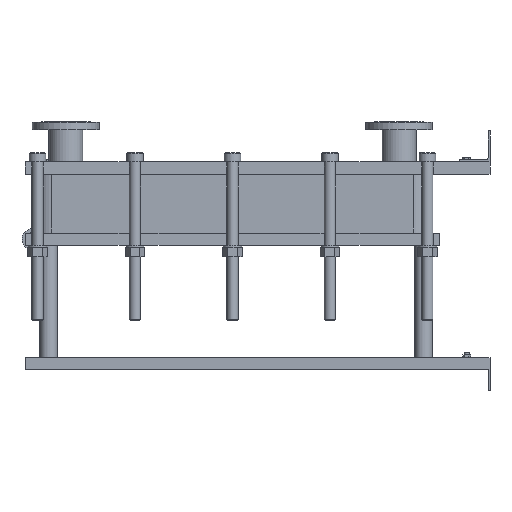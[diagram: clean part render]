
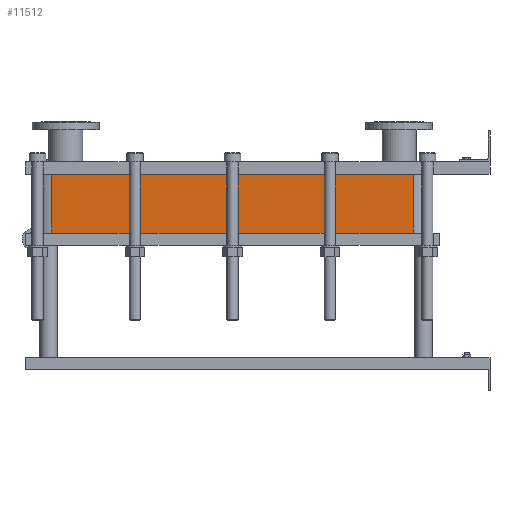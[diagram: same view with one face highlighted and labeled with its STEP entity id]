
A CAD part, left-side view. The second image highlights one B-rep face of the part: STEP entity #11512.
In plain terms, the highlighted planar face has unit normal (-1, 0, 0).
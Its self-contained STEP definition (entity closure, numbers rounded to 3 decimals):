
#1129=LINE('',#23232,#2102);
#1130=LINE('',#23236,#2103);
#1131=LINE('',#23238,#2104);
#1132=LINE('',#23239,#2105);
#2102=VECTOR('',#15887,10.);
#2103=VECTOR('',#15892,10.);
#2104=VECTOR('',#15893,10.);
#2105=VECTOR('',#15894,10.);
#3267=FACE_OUTER_BOUND('',#4093,.T.);
#4093=EDGE_LOOP('',(#10103,#10104,#10105,#10106));
#5642=VERTEX_POINT('',#23229);
#5643=VERTEX_POINT('',#23231);
#5644=VERTEX_POINT('',#23235);
#5645=VERTEX_POINT('',#23237);
#7159=EDGE_CURVE('',#5643,#5642,#1129,.T.);
#7161=EDGE_CURVE('',#5642,#5644,#1130,.T.);
#7162=EDGE_CURVE('',#5645,#5644,#1131,.T.);
#7163=EDGE_CURVE('',#5645,#5643,#1132,.T.);
#10103=ORIENTED_EDGE('',*,*,#7161,.T.);
#10104=ORIENTED_EDGE('',*,*,#7162,.F.);
#10105=ORIENTED_EDGE('',*,*,#7163,.T.);
#10106=ORIENTED_EDGE('',*,*,#7159,.T.);
#10857=PLANE('',#12751);
#11512=ADVANCED_FACE('',(#3267),#10857,.T.);
#12751=AXIS2_PLACEMENT_3D('',#23234,#15890,#15891);
#15887=DIRECTION('',(0.,0.,-1.));
#15890=DIRECTION('center_axis',(-1.,0.,0.));
#15891=DIRECTION('ref_axis',(0.,1.,0.));
#15892=DIRECTION('',(0.,-1.,0.));
#15893=DIRECTION('',(0.,0.,-1.));
#15894=DIRECTION('',(0.,1.,0.));
#23229=CARTESIAN_POINT('',(-200.,1414.,-189.75));
#23231=CARTESIAN_POINT('',(-200.,1414.,0.));
#23232=CARTESIAN_POINT('',(-200.,1414.,0.));
#23234=CARTESIAN_POINT('Origin',(-200.,248.,0.));
#23235=CARTESIAN_POINT('',(-200.,248.,-189.75));
#23236=CARTESIAN_POINT('',(-200.,539.5,-189.75));
#23237=CARTESIAN_POINT('',(-200.,248.,0.));
#23238=CARTESIAN_POINT('',(-200.,248.,0.));
#23239=CARTESIAN_POINT('',(-200.,248.,0.));
